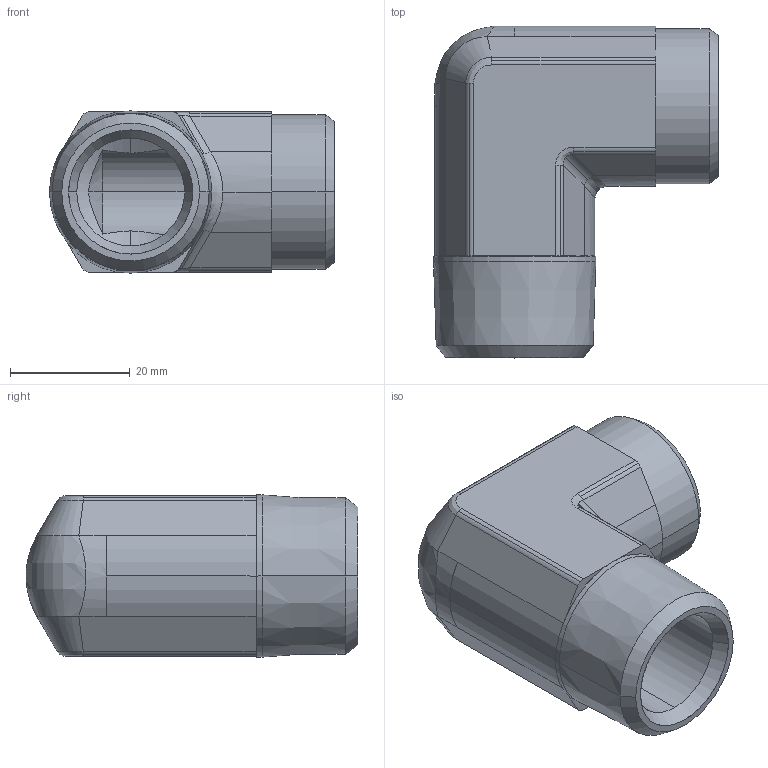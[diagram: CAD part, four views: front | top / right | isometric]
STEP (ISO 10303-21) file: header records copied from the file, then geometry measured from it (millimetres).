
FILE_DESCRIPTION((''),'2;1');
FILE_NAME('102034.stp','2007-10-30T16:35:23',(''),(''),'AutoCAD STEP 2000i','AutoCAD 2000i',', , ');
FILE_SCHEMA(('CONFIG_CONTROL_DESIGN'));
Length unit declared in the file: millimetre
Products named in the file (2): 102034.0; 3090#0
Assembly tree (1 placements, depth 2):
  102034.0
    3090#0
Bounding box: 47.53 x 55.38 x 27.07 mm (x, y, z)
Volume: 26047.1 mm3; surface area: 11014.1 mm2
Topology: 1 solids, 1 shells, 91 faces, 220 edges, 133 vertices
Faces by surface type: cylinder 38, plane 22, cone 17, bspline 14
Entity records: 3666 total; most frequent: CARTESIAN_POINT 1428, DIRECTION 470, ORIENTED_EDGE 440, EDGE_CURVE 220, AXIS2_PLACEMENT_3D 192, VERTEX_POINT 133, CIRCLE 103, EDGE_LOOP 95
